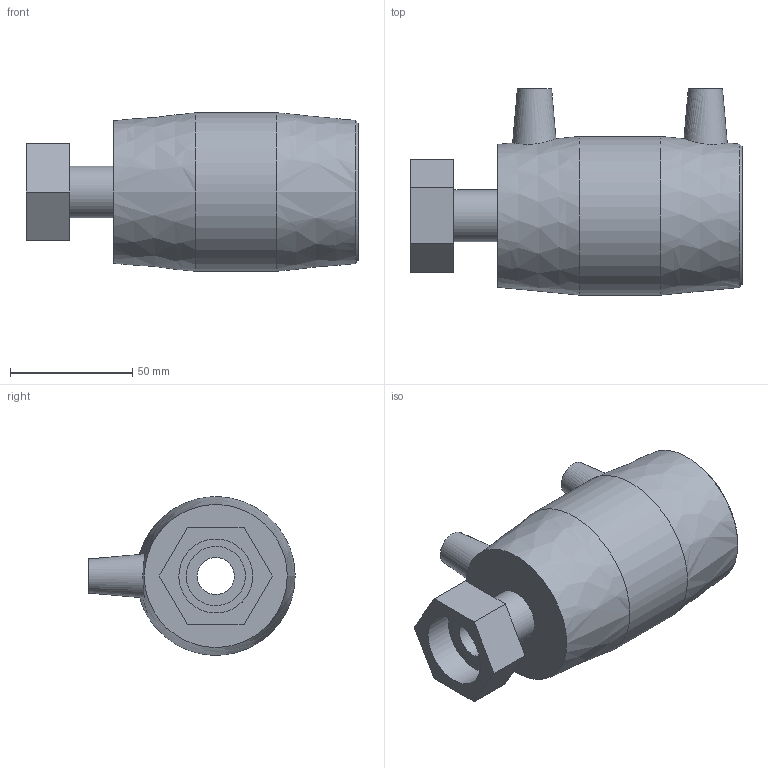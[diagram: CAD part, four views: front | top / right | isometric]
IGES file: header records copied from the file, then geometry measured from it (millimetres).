
Global section: file name: 494104050010; native system: Autodesk Inventor 2026; preprocessor: unknown; author: KIM; date: 20260512.113435; units: millimetre
Bounding box: 136 x 84.5 x 64.94 mm (x, y, z)
Volume: 154158.5 mm3; surface area: 51099.7 mm2
Topology: 1 solids, 1 shells, 36 faces, 81 edges, 59 vertices
Faces by surface type: bspline 36
